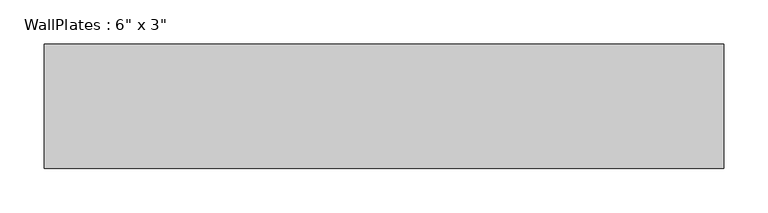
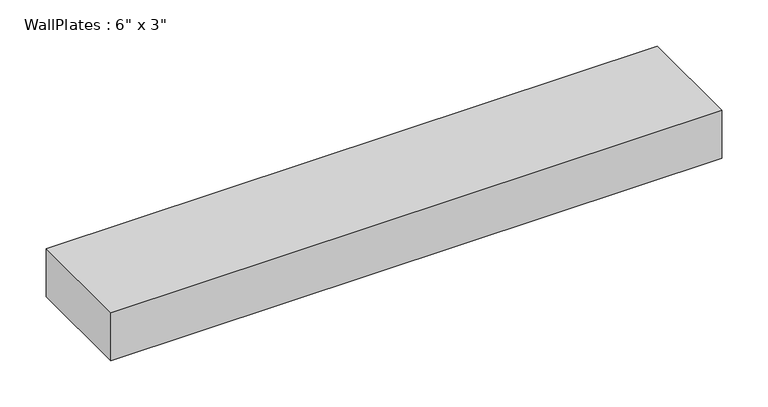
"""IFC4 building model written with IfcOpenShell, lengths in millimetres: beam geometry."""

from ifc_helpers import new_model, si_unit, frame, origin, place, context, project, spatial, polyline, outline, extrude, source, transform, mapped, element, save


def beam_27df2988(model_context):
    return source(origin(), model_context, "Body", "SweptSolid", [
        extrude(outline(polyline([(-381.8466667, -69.85), (-381.8466667, 69.85), (381.8466667, 69.85), (381.8466667, -69.85), (-381.8466667, -69.85)])), frame((0.0, 0.0, -31.75), z_axis=(0.0, 0.0, 1.0), x_axis=(1.0, 0.0, 0.0)), (0.0, 0.0, 1.0), 63.5),
    ])


if __name__ == "__main__":
    model = new_model("IFC4")
    model_context = context("Model", 3, world=origin())
    ifc_project = project(units=[si_unit("LENGTHUNIT", "METRE", prefix="MILLI")], contexts=[model_context])
    site = spatial("IfcSite", under=ifc_project)
    building = spatial("IfcBuilding", under=site)
    placement = place(None, origin())
    beam_shape = beam_27df2988(model_context)
    element("IfcBeam", 1, ObjectType="WallPlates : 6\" x 3\"", at=placement, inside=building, context=model_context, shape_type="MappedRepresentation", body=[
        mapped(beam_shape, transform((0.0, 0.0, 0.0), x_axis=(1.0, 0.0, 0.0), y_axis=(0.0, 1.0, 0.0), z_axis=(0.0, 0.0, 1.0))),
    ])
    save(model, "model.ifc")
